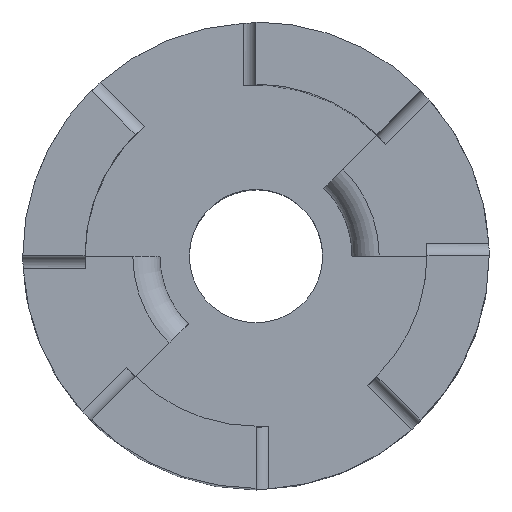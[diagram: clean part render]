
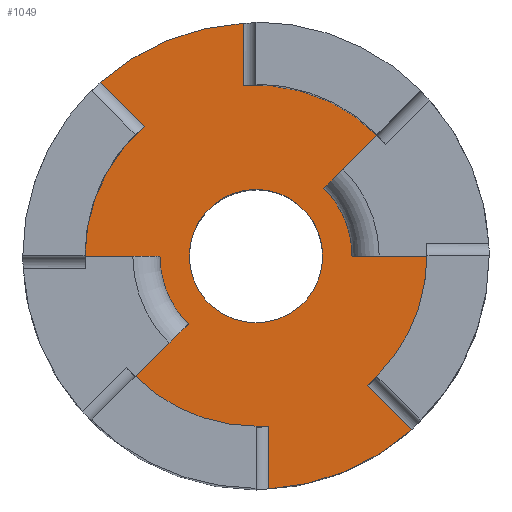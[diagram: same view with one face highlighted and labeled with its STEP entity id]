
A CAD part, top view. The second image highlights one B-rep face of the part: STEP entity #1049.
In plain terms, the highlighted planar face has unit normal (0, 0, 1).
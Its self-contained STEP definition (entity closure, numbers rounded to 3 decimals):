
#17=FACE_BOUND('',#173,.T.);
#62=CIRCLE('',#1142,10.922);
#66=CIRCLE('',#1146,10.922);
#69=CIRCLE('',#1150,3.125);
#70=CIRCLE('',#1157,8.01);
#71=CIRCLE('',#1158,4.5);
#72=CIRCLE('',#1159,8.01);
#73=CIRCLE('',#1160,8.01);
#74=CIRCLE('',#1161,4.5);
#75=CIRCLE('',#1162,8.01);
#117=FACE_OUTER_BOUND('',#172,.T.);
#172=EDGE_LOOP('',(#826,#827,#828,#829,#830,#831,#832,#833,#834,#835,#836,
#837,#838,#839,#840,#841));
#173=EDGE_LOOP('',(#842));
#263=LINE('',#1791,#354);
#266=LINE('',#1809,#357);
#268=LINE('',#1815,#359);
#269=LINE('',#1819,#360);
#270=LINE('',#1822,#361);
#271=LINE('',#1824,#362);
#272=LINE('',#1828,#363);
#273=LINE('',#1832,#364);
#354=VECTOR('',#1368,10.);
#357=VECTOR('',#1375,10.);
#359=VECTOR('',#1381,10.);
#360=VECTOR('',#1384,10.);
#361=VECTOR('',#1387,10.);
#362=VECTOR('',#1388,10.);
#363=VECTOR('',#1391,10.);
#364=VECTOR('',#1394,10.);
#439=VERTEX_POINT('',#1640);
#440=VERTEX_POINT('',#1651);
#451=VERTEX_POINT('',#1700);
#452=VERTEX_POINT('',#1711);
#459=VERTEX_POINT('',#1755);
#463=VERTEX_POINT('',#1778);
#467=VERTEX_POINT('',#1798);
#468=VERTEX_POINT('',#1812);
#469=VERTEX_POINT('',#1814);
#470=VERTEX_POINT('',#1816);
#471=VERTEX_POINT('',#1818);
#472=VERTEX_POINT('',#1820);
#473=VERTEX_POINT('',#1823);
#474=VERTEX_POINT('',#1825);
#475=VERTEX_POINT('',#1827);
#476=VERTEX_POINT('',#1829);
#477=VERTEX_POINT('',#1831);
#564=EDGE_CURVE('',#440,#439,#62,.F.);
#576=EDGE_CURVE('',#452,#451,#66,.F.);
#586=EDGE_CURVE('',#459,#459,#69,.T.);
#594=EDGE_CURVE('',#440,#463,#263,.T.);
#598=EDGE_CURVE('',#467,#439,#266,.T.);
#600=EDGE_CURVE('',#467,#468,#70,.T.);
#601=EDGE_CURVE('',#468,#469,#268,.T.);
#602=EDGE_CURVE('',#470,#469,#71,.T.);
#603=EDGE_CURVE('',#470,#471,#269,.T.);
#604=EDGE_CURVE('',#471,#472,#72,.T.);
#605=EDGE_CURVE('',#452,#472,#270,.T.);
#606=EDGE_CURVE('',#473,#451,#271,.T.);
#607=EDGE_CURVE('',#473,#474,#73,.T.);
#608=EDGE_CURVE('',#474,#475,#272,.T.);
#609=EDGE_CURVE('',#476,#475,#74,.T.);
#610=EDGE_CURVE('',#476,#477,#273,.T.);
#611=EDGE_CURVE('',#477,#463,#75,.T.);
#826=ORIENTED_EDGE('',*,*,#594,.F.);
#827=ORIENTED_EDGE('',*,*,#564,.T.);
#828=ORIENTED_EDGE('',*,*,#598,.F.);
#829=ORIENTED_EDGE('',*,*,#600,.T.);
#830=ORIENTED_EDGE('',*,*,#601,.T.);
#831=ORIENTED_EDGE('',*,*,#602,.F.);
#832=ORIENTED_EDGE('',*,*,#603,.T.);
#833=ORIENTED_EDGE('',*,*,#604,.T.);
#834=ORIENTED_EDGE('',*,*,#605,.F.);
#835=ORIENTED_EDGE('',*,*,#576,.T.);
#836=ORIENTED_EDGE('',*,*,#606,.F.);
#837=ORIENTED_EDGE('',*,*,#607,.T.);
#838=ORIENTED_EDGE('',*,*,#608,.T.);
#839=ORIENTED_EDGE('',*,*,#609,.F.);
#840=ORIENTED_EDGE('',*,*,#610,.T.);
#841=ORIENTED_EDGE('',*,*,#611,.T.);
#842=ORIENTED_EDGE('',*,*,#586,.T.);
#1007=PLANE('',#1156);
#1049=ADVANCED_FACE('',(#117,#17),#1007,.T.);
#1142=AXIS2_PLACEMENT_3D('',#1652,#1331,#1332);
#1146=AXIS2_PLACEMENT_3D('',#1712,#1343,#1344);
#1150=AXIS2_PLACEMENT_3D('',#1757,#1355,#1356);
#1156=AXIS2_PLACEMENT_3D('',#1811,#1377,#1378);
#1157=AXIS2_PLACEMENT_3D('',#1813,#1379,#1380);
#1158=AXIS2_PLACEMENT_3D('',#1817,#1382,#1383);
#1159=AXIS2_PLACEMENT_3D('',#1821,#1385,#1386);
#1160=AXIS2_PLACEMENT_3D('',#1826,#1389,#1390);
#1161=AXIS2_PLACEMENT_3D('',#1830,#1392,#1393);
#1162=AXIS2_PLACEMENT_3D('',#1833,#1395,#1396);
#1331=DIRECTION('center_axis',(0.,0.,-1.));
#1332=DIRECTION('ref_axis',(1.,0.,0.));
#1343=DIRECTION('center_axis',(0.,0.,-1.));
#1344=DIRECTION('ref_axis',(1.,0.,0.));
#1355=DIRECTION('center_axis',(0.,0.,-1.));
#1356=DIRECTION('ref_axis',(-1.,0.,0.));
#1368=DIRECTION('',(0.,-1.,0.));
#1375=DIRECTION('',(-0.707,0.707,0.));
#1377=DIRECTION('center_axis',(0.,0.,1.));
#1378=DIRECTION('ref_axis',(1.,0.,0.));
#1379=DIRECTION('center_axis',(0.,0.,1.));
#1380=DIRECTION('ref_axis',(0.707,-0.707,0.));
#1381=DIRECTION('',(1.,0.,0.));
#1382=DIRECTION('center_axis',(0.,0.,-1.));
#1383=DIRECTION('ref_axis',(1.,0.,0.));
#1384=DIRECTION('',(-0.707,-0.707,0.));
#1385=DIRECTION('center_axis',(0.,0.,1.));
#1386=DIRECTION('ref_axis',(0.707,-0.707,0.));
#1387=DIRECTION('',(0.,1.,0.));
#1388=DIRECTION('',(0.707,-0.707,0.));
#1389=DIRECTION('center_axis',(0.,0.,1.));
#1390=DIRECTION('ref_axis',(-0.707,0.707,0.));
#1391=DIRECTION('',(-1.,0.,0.));
#1392=DIRECTION('center_axis',(0.,0.,-1.));
#1393=DIRECTION('ref_axis',(1.,0.,0.));
#1394=DIRECTION('',(0.707,0.707,0.));
#1395=DIRECTION('center_axis',(0.,0.,1.));
#1396=DIRECTION('ref_axis',(-0.707,0.707,0.));
#1640=CARTESIAN_POINT('',(-7.287,8.136,2.54));
#1651=CARTESIAN_POINT('',(-0.6,10.906,2.54));
#1652=CARTESIAN_POINT('Origin',(0.,0.,2.54));
#1700=CARTESIAN_POINT('',(7.287,-8.136,2.54));
#1711=CARTESIAN_POINT('',(0.6,-10.906,2.54));
#1712=CARTESIAN_POINT('Origin',(0.,0.,2.54));
#1755=CARTESIAN_POINT('',(3.125,0.,2.54));
#1757=CARTESIAN_POINT('Origin',(0.,0.,2.54));
#1778=CARTESIAN_POINT('',(-0.6,7.987,2.54));
#1791=CARTESIAN_POINT('',(-0.6,5.08,2.54));
#1798=CARTESIAN_POINT('',(-5.224,6.072,2.54));
#1809=CARTESIAN_POINT('',(-2.408,3.256,2.54));
#1811=CARTESIAN_POINT('Origin',(0.,0.,
2.54));
#1812=CARTESIAN_POINT('',(-8.01,0.,2.54));
#1813=CARTESIAN_POINT('Origin',(0.,0.,
2.54));
#1814=CARTESIAN_POINT('',(-4.5,0.,2.54));
#1815=CARTESIAN_POINT('',(-1.594,0.,2.54));
#1816=CARTESIAN_POINT('',(-3.182,-3.182,2.54));
#1817=CARTESIAN_POINT('Origin',(0.,0.,2.54));
#1818=CARTESIAN_POINT('',(-5.664,-5.664,2.54));
#1819=CARTESIAN_POINT('',(-2.832,-2.832,2.54));
#1820=CARTESIAN_POINT('',(0.6,-7.987,2.54));
#1821=CARTESIAN_POINT('Origin',(0.,0.,
2.54));
#1822=CARTESIAN_POINT('',(0.6,-5.08,2.54));
#1823=CARTESIAN_POINT('',(5.224,-6.072,2.54));
#1824=CARTESIAN_POINT('',(2.408,-3.256,2.54));
#1825=CARTESIAN_POINT('',(8.01,0.,2.54));
#1826=CARTESIAN_POINT('Origin',(0.,0.,
2.54));
#1827=CARTESIAN_POINT('',(4.5,0.,2.54));
#1828=CARTESIAN_POINT('',(1.594,0.,2.54));
#1829=CARTESIAN_POINT('',(3.182,3.182,2.54));
#1830=CARTESIAN_POINT('Origin',(0.,0.,2.54));
#1831=CARTESIAN_POINT('',(5.664,5.664,2.54));
#1832=CARTESIAN_POINT('',(2.832,2.832,2.54));
#1833=CARTESIAN_POINT('Origin',(0.,0.,
2.54));
